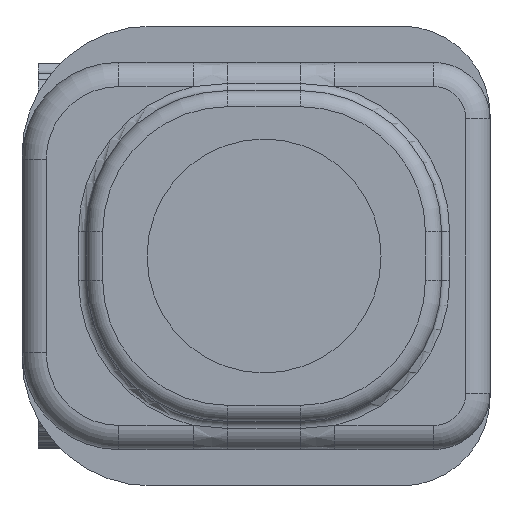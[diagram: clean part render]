
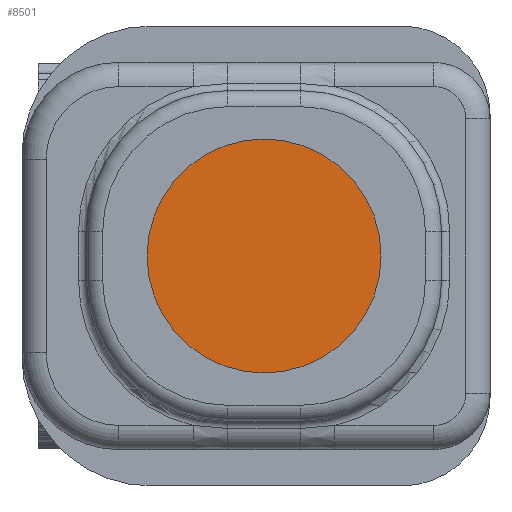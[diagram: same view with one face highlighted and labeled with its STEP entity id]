
A CAD part, front view. The second image highlights one B-rep face of the part: STEP entity #8501.
In plain terms, the highlighted planar face has unit normal (0, -1, 0).
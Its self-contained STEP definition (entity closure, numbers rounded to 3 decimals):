
#3171=CARTESIAN_POINT('',(-2.8,-37.2,0.));
#3172=DIRECTION('',(0.,-1.,0.));
#3173=DIRECTION('',(0.,0.,1.));
#3174=AXIS2_PLACEMENT_3D('',#3171,#3172,#3173);
#3180=CARTESIAN_POINT('',(-2.8,-37.2,0.));
#3181=DIRECTION('',(0.,-1.,0.));
#3182=DIRECTION('',(0.,0.,-1.));
#3183=AXIS2_PLACEMENT_3D('',#3180,#3181,#3182);
#4349=CARTESIAN_POINT('',(-2.8,-37.2,1.45));
#4350=CARTESIAN_POINT('',(-2.8,-37.2,-1.45));
#4351=VERTEX_POINT('',#4349);
#4352=VERTEX_POINT('',#4350);
#8491=CARTESIAN_POINT('',(0.,-37.2,-3.42));
#8492=DIRECTION('',(0.,1.,0.));
#8493=DIRECTION('',(-1.,0.,0.));
#8494=AXIS2_PLACEMENT_3D('',#8491,#8492,#8493);
#8495=PLANE('',#8494);
#8496=ORIENTED_EDGE('',*,*,#8481,.F.);
#8498=ORIENTED_EDGE('',*,*,#8497,.F.);
#8499=EDGE_LOOP('',(#8496,#8498));
#8500=FACE_OUTER_BOUND('',#8499,.F.);
#3175=CIRCLE('',#3174,1.45);
#3184=CIRCLE('',#3183,1.45);
#8481=EDGE_CURVE('',#4351,#4352,#3175,.T.);
#8497=EDGE_CURVE('',#4352,#4351,#3184,.T.);
#8501=ADVANCED_FACE('',(#8500),#8495,.F.);
